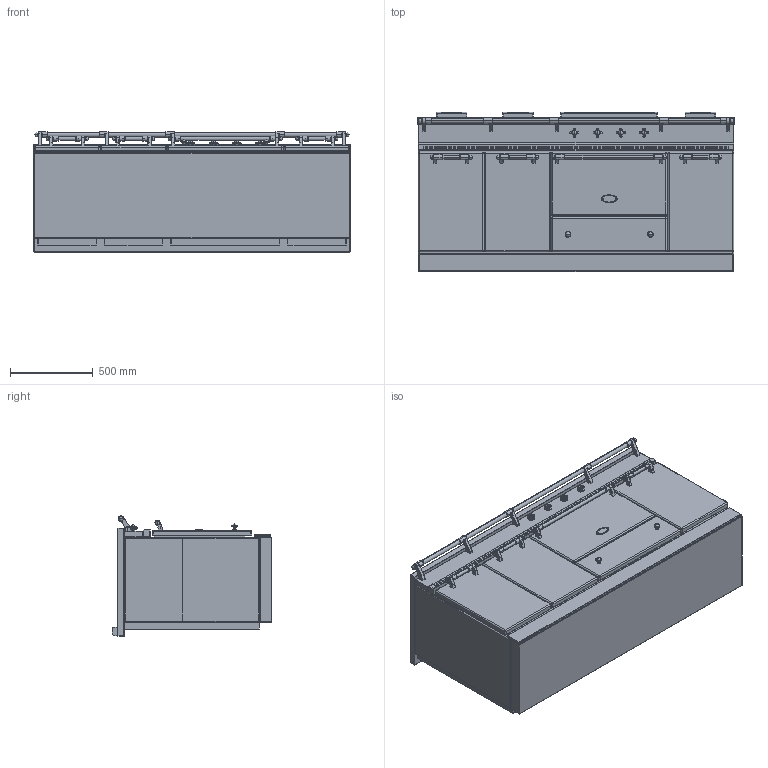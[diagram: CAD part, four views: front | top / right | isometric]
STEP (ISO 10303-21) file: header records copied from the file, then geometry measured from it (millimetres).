
FILE_DESCRIPTION((''),'2;1');
FILE_NAME('VUES_DXF_ASM','2021-12-08T09:06:27',('r.avril'),(''),'CREO PARAMETRIC BY PTC INC, 2017260','CREO PARAMETRIC BY PTC INC, 2017260','');
FILE_SCHEMA(('AP203_CONFIGURATION_CONTROLLED_3D_DESIGN_OF_MECHANICAL_PARTS_AND_ASSEMBLIES_MIM_LF { 1 0 10303 403 2 1 2 }'));
Products named in the file (22): BASE_EXPORT_FONTENAY_LVI1931G; 65650003; 65650004; 65650006; 65650007; 6531940; 6531941; 6531943; 65049009; 65650001; 6538399; 1931942; 65080022_AF0; 6531942_ASM; BASE_EXPORT_FONTENAY_LVI1931G_ASM; TABLE_1900G_INDUCTION_ET_VTR; 65052012; CHEMINEE_2020_LG582_EXPORT_STEP; CHEMINEE_2020_LG182_EXPORT_STEP; TABLE_1900G_INDUCTION_ASM; LVI1931G_ASM; VUES_DXF_ASM
Assembly tree (34 placements, depth 5):
  VUES_DXF_ASM
    LVI1931G_ASM
      BASE_EXPORT_FONTENAY_LVI1931G_ASM
        BASE_EXPORT_FONTENAY_LVI1931G
        65650003
        65650004
        65650006
        65650007  x2
        6531940  x4
        6531941  x4
        6531943  x2
        65049009
        65650001
        6531942_ASM  x4
          6538399
          1931942
          65080022_AF0
      TABLE_1900G_INDUCTION_ASM
        TABLE_1900G_INDUCTION_ET_VTR
        65052012
        CHEMINEE_2020_LG582_EXPORT_STEP
        CHEMINEE_2020_LG182_EXPORT_STEP  x3
Bounding box: 1905 x 963 x 724 mm (x, y, z)
Volume: 702631711.8 mm3; surface area: 16449860.3 mm2
Topology: 45 solids, 60 shells, 5093 faces, 13821 edges, 8847 vertices
Faces by surface type: plane 2552, cylinder 1821, torus 243, sphere 154, extrusion 114, bspline 105, cone 84, revolution 20
Entity records: 126072 total; most frequent: CARTESIAN_POINT 26172, ORIENTED_EDGE 17664, DIRECTION 17530, EDGE_CURVE 8846, VECTOR 5924, LINE 5894, AXIS2_PLACEMENT_3D 5768, VERTEX_POINT 5715
